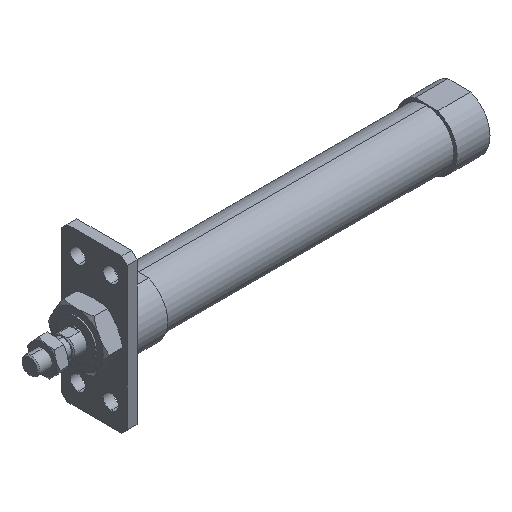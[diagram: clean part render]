
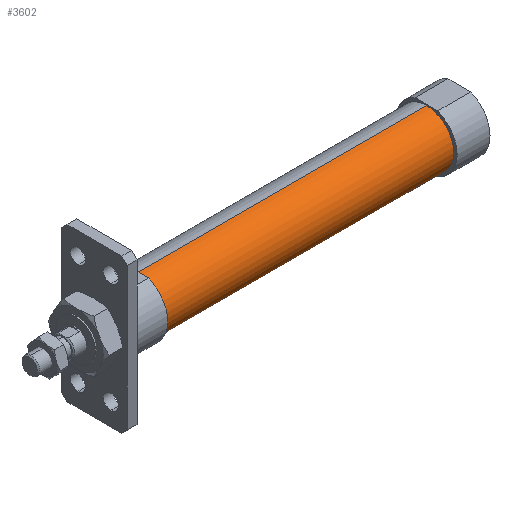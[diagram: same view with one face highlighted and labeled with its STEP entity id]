
A CAD part, isometric view. The second image highlights one B-rep face of the part: STEP entity #3602.
In plain terms, the highlighted cylindrical face has radius 12.5 mm (diameter 25 mm), a partial arc.
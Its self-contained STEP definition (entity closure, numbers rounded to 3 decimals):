
#88 = VERTEX_POINT ( 'NONE', #498 ) ;
#141 = VERTEX_POINT ( 'NONE', #3068 ) ;
#247 = DIRECTION ( 'NONE',  ( -1., 0., 0. ) ) ;
#254 = FACE_OUTER_BOUND ( 'NONE', #1097, .T. ) ;
#498 = CARTESIAN_POINT ( 'NONE',  ( 49., 0., -12.5 ) ) ;
#560 = EDGE_CURVE ( 'NONE', #141, #2094, #1700, .T. ) ;
#889 = CARTESIAN_POINT ( 'NONE',  ( 181., 0., -12.5 ) ) ;
#959 = ORIENTED_EDGE ( 'NONE', *, *, #2728, .T. ) ;
#1002 = AXIS2_PLACEMENT_3D ( 'NONE', #1613, #3591, #1900 ) ;
#1097 = EDGE_LOOP ( 'NONE', ( #3423, #959, #2903, #1706 ) ) ;
#1348 = EDGE_CURVE ( 'NONE', #2809, #88, #2267, .T. ) ;
#1423 = CIRCLE ( 'NONE', #3230, 12.5 ) ;
#1424 = DIRECTION ( 'NONE',  ( -1., 0., 0. ) ) ;
#1566 = DIRECTION ( 'NONE',  ( -1., 0., 0. ) ) ;
#1613 = CARTESIAN_POINT ( 'NONE',  ( -6.469, 0., 0. ) ) ;
#1700 = LINE ( 'NONE', #2668, #3337 ) ;
#1706 = ORIENTED_EDGE ( 'NONE', *, *, #3317, .F. ) ;
#1900 = DIRECTION ( 'NONE',  ( 0., 0., 1. ) ) ;
#1972 = CARTESIAN_POINT ( 'NONE',  ( -6.469, 0., -12.5 ) ) ;
#2078 = CYLINDRICAL_SURFACE ( 'NONE', #1002, 12.5 ) ;
#2094 = VERTEX_POINT ( 'NONE', #2304 ) ;
#2114 = CARTESIAN_POINT ( 'NONE',  ( 49., 0., 0. ) ) ;
#2267 = LINE ( 'NONE', #1972, #2941 ) ;
#2304 = CARTESIAN_POINT ( 'NONE',  ( 49., 0., 12.5 ) ) ;
#2668 = CARTESIAN_POINT ( 'NONE',  ( -6.469, 0., 12.5 ) ) ;
#2728 = EDGE_CURVE ( 'NONE', #2809, #141, #3553, .T. ) ;
#2809 = VERTEX_POINT ( 'NONE', #889 ) ;
#2903 = ORIENTED_EDGE ( 'NONE', *, *, #560, .T. ) ;
#2941 = VECTOR ( 'NONE', #247, 1000. ) ;
#2978 = DIRECTION ( 'NONE',  ( -1., 0., 0. ) ) ;
#3068 = CARTESIAN_POINT ( 'NONE',  ( 181., 0., 12.5 ) ) ;
#3106 = CARTESIAN_POINT ( 'NONE',  ( 181., 0., 0. ) ) ;
#3124 = DIRECTION ( 'NONE',  ( 0., 0., 1. ) ) ;
#3230 = AXIS2_PLACEMENT_3D ( 'NONE', #2114, #1566, #3544 ) ;
#3317 = EDGE_CURVE ( 'NONE', #88, #2094, #1423, .T. ) ;
#3337 = VECTOR ( 'NONE', #2978, 1000. ) ;
#3373 = AXIS2_PLACEMENT_3D ( 'NONE', #3106, #1424, #3124 ) ;
#3423 = ORIENTED_EDGE ( 'NONE', *, *, #1348, .F. ) ;
#3544 = DIRECTION ( 'NONE',  ( 0., 0., 1. ) ) ;
#3553 = CIRCLE ( 'NONE', #3373, 12.5 ) ;
#3591 = DIRECTION ( 'NONE',  ( -1., 0., 0. ) ) ;
#3602 = ADVANCED_FACE ( 'NONE', ( #254 ), #2078, .T. ) ;
